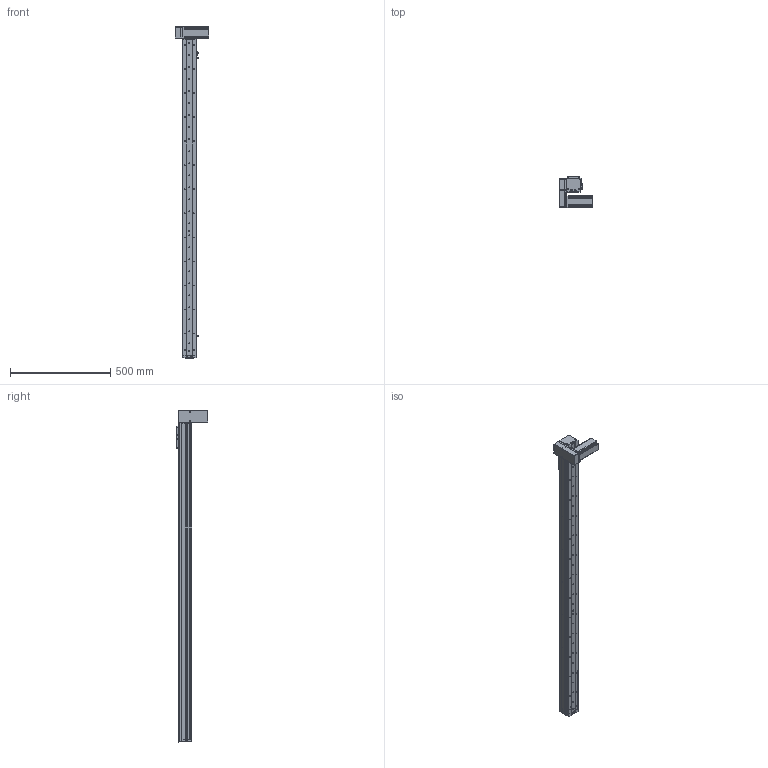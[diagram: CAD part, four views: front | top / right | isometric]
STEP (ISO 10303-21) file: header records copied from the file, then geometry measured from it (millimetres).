
FILE_DESCRIPTION (( 'STEP AP214' ), '1' );
FILE_NAME ('KSD68BS-S1400-MRD-CR.STEP', '2019-08-28T02:42:46', ( '微软用户' ), ( '微软中国' ), 'SwSTEP 2.0', 'SolidWorks 2014', '' );
FILE_SCHEMA (( 'AUTOMOTIVE_DESIGN' ));
Length unit declared in the file: millimetre
Products named in the file (14): 68宽马达安装板连板上折同步带; 感应片68宽全封闭; U倰嫖萇EEㄜSX672; 台达ECMA－C20604AS伺服电机（400W); KSD68BS 1400行程底板全封闭; KSD68BS-S1400-MRD-CR; 68遵裔啣揤啣1; 68宽单导轨全封闭丝杆传动安装板1防护罩; KSD68BS 1400行程盖板全封闭; KSD68BS 1400行程侧板全封闭; 68宽单导轨全封闭同步带端板; 68单导轨全封闭同步带电机座右; 68单导轨全封闭同步带安装板; 悵誘欶奻狟殏
Assembly tree (17 placements, depth 2):
  KSD68BS-S1400-MRD-CR
    KSD68BS 1400行程底板全封闭
    台达ECMA－C20604AS伺服电机（400W)
    U倰嫖萇EEㄜSX672  x3
    感应片68宽全封闭
    68宽马达安装板连板上折同步带
    悵誘欶奻狟殏
    68单导轨全封闭同步带安装板
    68单导轨全封闭同步带电机座右
    68宽单导轨全封闭同步带端板
    KSD68BS 1400行程侧板全封闭  x2
    68宽单导轨全封闭丝杆传动安装板1防护罩
    68遵裔啣揤啣1  x2
    KSD68BS 1400行程盖板全封闭
Bounding box: 167.2 x 155.5 x 1658.1 mm (x, y, z)
Volume: 3075835.1 mm3; surface area: 1226562.7 mm2
Topology: 18 solids, 18 shells, 1588 faces, 4561 edges, 2907 vertices
Faces by surface type: cylinder 773, plane 631, cone 184
Entity records: 51410 total; most frequent: CARTESIAN_POINT 8889, DIRECTION 7669, ORIENTED_EDGE 7334, EDGE_CURVE 3667, AXIS2_PLACEMENT_3D 2789, VERTEX_POINT 2405, VECTOR 2091, LINE 2091
